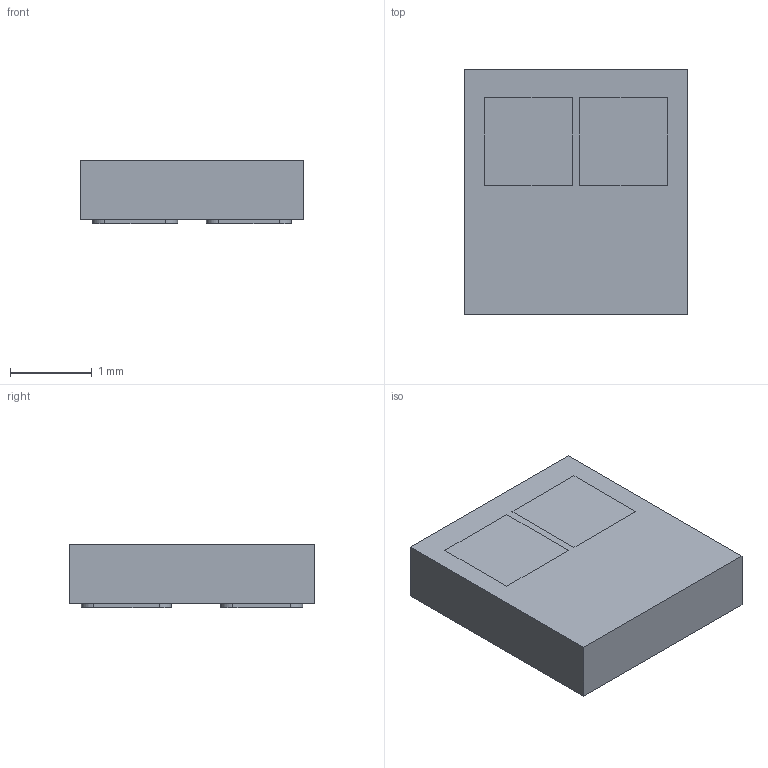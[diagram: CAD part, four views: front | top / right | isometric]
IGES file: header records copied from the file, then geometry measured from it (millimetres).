
Start section: SolidWorks IGES file using analytic representation for surfaces
Global section: file name: C:\Users\user\Desktop\XYY\1-车灯产品3D图汇总\大功率系列\ASL2\ASL2.IGS; native system: SolidWorks 2022; preprocessor: SolidWorks 2022; author: user; date: 250218.161633; units: millimetre
Bounding box: 2.73 x 3 x 0.78 mm (x, y, z)
Surface area: 25.5 mm2 (no closed solid volume)
Topology: 0 solids, 0 shells, 47 faces, 465 edges, 590 vertices
Faces by surface type: bspline 32, revolution 15
